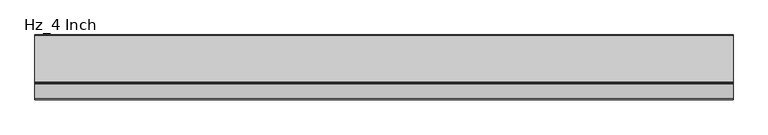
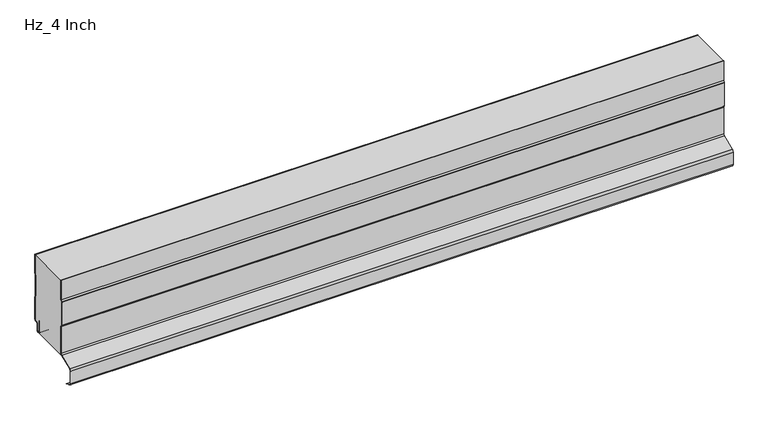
"""IFC4 building model written with IfcOpenShell, lengths in millimetres: plate geometry, AWIP_R18_CP_HR5_Hz_Roof Panel : Hz_4 Inch."""

import ifcopenshell
import ifcopenshell.guid

model = None  # the IFC model being written
_history = None  # IfcOwnerHistory: only IFC2X3 demands one
_inside = {}  # id of a spatial element -> (the spatial element, [elements in it])
_under = {}  # id of a project, library or spatial element -> (it, [spatial elements below it])
_declared = {}  # id of a project -> (the project, [libraries it declares])
_typed = {}  # id of a type object -> (the type object, [elements of that type])
_made_of = {}  # id of a material, layer set ... -> (it, [elements and type objects made of it])


def new_model(schema):
    """Start an empty IFC model of exactly this schema.

    Asked for "IFC4X3", IfcOpenShell would pick the latest addendum, in which some entities
    have other attributes; the version numbers below select the first issue.
    IFC2X3 requires an IfcOwnerHistory on every rooted entity: one is made here for all.
    """
    global model, _history
    if schema == "IFC4X3":
        model = ifcopenshell.file(schema_version=(4, 3, 0, 0))
    else:
        model = ifcopenshell.file(schema=schema)
    _inside.clear()
    _under.clear()
    _declared.clear()
    _typed.clear()
    _made_of.clear()
    _history = None
    if model.schema == "IFC2X3":
        org = make("IfcOrganization", Name="unknown")
        user = make(
            "IfcPersonAndOrganization",
            ThePerson=make("IfcPerson", FamilyName="unknown"),
            TheOrganization=org,
        )
        app = make(
            "IfcApplication",
            ApplicationDeveloper=org,
            Version="unknown",
            ApplicationFullName="unknown",
            ApplicationIdentifier="unknown",
        )
        _history = make(
            "IfcOwnerHistory",
            OwningUser=user,
            OwningApplication=app,
            ChangeAction="ADDED",
            CreationDate=0,
        )
    return model


def make(cls, **values):
    """One entity of the class cls with the attributes given. An attribute that is None is left unset."""
    return model.create_entity(
        cls, **{name: value for name, value in values.items() if value is not None}
    )


def rooted(cls, **values):
    """An entity with a GlobalId (a new one), such as an element, a storey or a relation."""
    return make(cls, GlobalId=ifcopenshell.guid.new(), OwnerHistory=_history, **values)


def si_unit(unit_type, name, prefix=None):
    """IfcSIUnit, for example si_unit("LENGTHUNIT", "METRE", prefix="MILLI")."""
    return make("IfcSIUnit", UnitType=unit_type, Prefix=prefix, Name=name)


def assignment(units):
    """IfcUnitAssignment: the units of a project."""
    return None if units is None else make("IfcUnitAssignment", Units=units)


def point(xyz):
    """IfcCartesianPoint."""
    return None if xyz is None else make("IfcCartesianPoint", Coordinates=xyz)


def direction(xyz):
    """IfcDirection."""
    return None if xyz is None else make("IfcDirection", DirectionRatios=xyz)


def frame(location, z_axis=None, x_axis=None):
    """IfcAxis2Placement3D, a coordinate frame: its origin and axes. An axis left out is left unset."""
    return make(
        "IfcAxis2Placement3D",
        Location=point(location),
        Axis=direction(z_axis),
        RefDirection=direction(x_axis),
    )


def frame_2d(location, x_axis=None):
    """IfcAxis2Placement2D, a coordinate frame in the plane: its origin and x axis."""
    return make(
        "IfcAxis2Placement2D", Location=point(location), RefDirection=direction(x_axis)
    )


def origin():
    """The frame at (0, 0, 0) with its axes left unset."""
    return frame((0.0, 0.0, 0.0))


def place(relative_to, where):
    """IfcLocalPlacement: puts the frame where relative to a parent placement (None: the world)."""
    return make(
        "IfcLocalPlacement", PlacementRelTo=relative_to, RelativePlacement=where
    )


def context(
    kind, dimensions, precision=None, world=None, true_north=None, identifier=None
):
    """IfcGeometricRepresentationContext, for example the 3D "Model" context."""
    return make(
        "IfcGeometricRepresentationContext",
        ContextIdentifier=identifier,
        ContextType=kind,
        CoordinateSpaceDimension=dimensions,
        Precision=precision,
        WorldCoordinateSystem=world,
        TrueNorth=true_north,
    )


def project(units=None, contexts=None):
    """IfcProject with its units and contexts."""
    return rooted(
        "IfcProject",
        Name="project",
        RepresentationContexts=contexts,
        UnitsInContext=assignment(units),
    )


def spatial(cls, under=None, at=None, **own):
    """A site, building, storey or space (cls), placed at a placement, below another one or the project."""
    s = rooted(cls, ObjectPlacement=at, **own)
    if under is not None:
        _under.setdefault(under.id(), (under, []))[1].append(s)
    return s


def polyline(points):
    """IfcPolyline through the points."""
    return make("IfcPolyline", Points=[point(p) for p in points])


def circle_curve(where, radius):
    """IfcCircle in the frame where."""
    return make("IfcCircle", Position=where, Radius=radius)


def trimmed(basis, trim1, trim2, sense, master):
    """IfcTrimmedCurve: the piece of a basis curve between two trims."""
    return make(
        "IfcTrimmedCurve",
        BasisCurve=basis,
        Trim1=trim1,
        Trim2=trim2,
        SenseAgreement=sense,
        MasterRepresentation=master,
    )


def segment(curve, same_sense, transition):
    """IfcCompositeCurveSegment."""
    return make(
        "IfcCompositeCurveSegment",
        Transition=transition,
        SameSense=same_sense,
        ParentCurve=curve,
    )


def composite_curve(segments, self_intersect=None):
    """IfcCompositeCurve: segments joined end to end."""
    return make("IfcCompositeCurve", Segments=segments, SelfIntersect=self_intersect)


def outline(outer, holes=None, kind="AREA"):
    """IfcArbitraryClosedProfileDef: a profile drawn as a closed curve; with holes, ...WithVoids."""
    if holes is None:
        return make("IfcArbitraryClosedProfileDef", ProfileType=kind, OuterCurve=outer)
    return make(
        "IfcArbitraryProfileDefWithVoids",
        ProfileType=kind,
        OuterCurve=outer,
        InnerCurves=holes,
    )


def extrude(swept, where, along, depth):
    """IfcExtrudedAreaSolid: the profile swept, set in the frame where, extruded along a direction by depth."""
    return make(
        "IfcExtrudedAreaSolid",
        SweptArea=swept,
        Position=where,
        ExtrudedDirection=direction(along),
        Depth=depth,
    )


def shape(context_of_items, identifier, shape_type, items):
    """IfcShapeRepresentation: the items that make up one representation, for example the "Body"."""
    return make(
        "IfcShapeRepresentation",
        ContextOfItems=context_of_items,
        RepresentationIdentifier=identifier,
        RepresentationType=shape_type,
        Items=items,
    )


def source(mapping_origin, context_of_items, identifier, shape_type, items):
    """IfcRepresentationMap: a shape defined once, which mapped items show again and again."""
    return make(
        "IfcRepresentationMap",
        MappingOrigin=mapping_origin,
        MappedRepresentation=shape(context_of_items, identifier, shape_type, items),
    )


def transform(
    local_origin,
    x_axis=None,
    y_axis=None,
    z_axis=None,
    scale=None,
    scale2=None,
    scale3=None,
    uniform=True,
):
    """IfcCartesianTransformationOperator3D, or its non-uniform kind. x_axis, y_axis, z_axis: its Axis1, 2, 3."""
    if uniform:
        return make(
            "IfcCartesianTransformationOperator3D",
            Axis1=direction(x_axis),
            Axis2=direction(y_axis),
            LocalOrigin=point(local_origin),
            Scale=scale,
            Axis3=direction(z_axis),
        )
    return make(
        "IfcCartesianTransformationOperator3DnonUniform",
        Axis1=direction(x_axis),
        Axis2=direction(y_axis),
        LocalOrigin=point(local_origin),
        Scale=scale,
        Axis3=direction(z_axis),
        Scale2=scale2,
        Scale3=scale3,
    )


def mapped(mapping_source, mapping_target):
    """IfcMappedItem: shows the shape of a source again, moved by a transform."""
    return make(
        "IfcMappedItem", MappingSource=mapping_source, MappingTarget=mapping_target
    )


def made_of(thing, what):
    """Note that an element or type object is made of a material, layer set ...; save() writes the relation."""
    if what is not None:
        _made_of.setdefault(what.id(), (what, []))[1].append(thing)
    return thing


def element(
    cls,
    number,
    at=None,
    inside=None,
    cuts=None,
    type_object=None,
    material=None,
    context=None,
    identifier="Body",
    shape_type=None,
    held_by="IfcProductDefinitionShape",
    body=None,
    shapes=None,
    **own,
):
    """One element of the class cls, such as IfcWall. Its Tag is "e" and its number.

    at: its placement. inside: the storey or other place that contains it. cuts: it is an
    opening in that element (IfcRelVoidsElement). A single representation is given by context,
    identifier, shape_type and body (its items); several are given by shapes. held_by: the class
    of the entity that holds the representations. save() writes the other relations.
    """
    e = rooted(cls, Tag="e%d" % number, ObjectPlacement=at, **own)
    if body is not None:
        shapes = [shape(context, identifier, shape_type, body)]
    if shapes is not None:
        e.Representation = make(held_by, Representations=shapes)
    if inside is not None:
        _inside.setdefault(inside.id(), (inside, []))[1].append(e)
    if cuts is not None:
        rooted(
            "IfcRelVoidsElement", RelatingBuildingElement=cuts, RelatedOpeningElement=e
        )
    if type_object is not None:
        _typed.setdefault(type_object.id(), (type_object, []))[1].append(e)
    return made_of(e, material)


def aggregate(whole, parts):
    """IfcRelAggregates: a whole, such as a stair, and the parts it consists of."""
    return rooted("IfcRelAggregates", RelatingObject=whole, RelatedObjects=parts)


def save(model, path):
    """Write the relations noted so far, then the file.

    IfcRelAggregates (storeys below a building ...), IfcRelContainedInSpatialStructure (elements
    in a storey), IfcRelDefinesByType, IfcRelAssociatesMaterial and IfcRelDeclares: one each for
    every whole, place, type object, material and project.
    """
    for whole, parts in _under.values():
        aggregate(whole, parts)
    for where, things in _inside.values():
        rooted(
            "IfcRelContainedInSpatialStructure",
            RelatedElements=things,
            RelatingStructure=where,
        )
    for kind, things in _typed.values():
        rooted("IfcRelDefinesByType", RelatedObjects=things, RelatingType=kind)
    for what, things in _made_of.values():
        rooted("IfcRelAssociatesMaterial", RelatedObjects=things, RelatingMaterial=what)
    for by, libraries in _declared.values():
        rooted("IfcRelDeclares", RelatingContext=by, RelatedDefinitions=libraries)
    model.write(path)


def hz_4_inch_9ffb667b(model_context):
    return source(origin(), model_context, "Body", "SweptSolid", [
        extrude(outline(composite_curve([segment(polyline([(-0.8, 161.5426774), (-0.8, 203.2), (0.0, 203.2), (0.0, 161.5426774)]), True, "CONTINUOUS"), segment(trimmed(circle_curve(frame_2d((-3.2, 161.5426774)), 3.2), [point((0.0, 161.5426774))], [point((-0.2624164, 160.2735823))], False, "CARTESIAN"), True, "CONTINUOUS"), segment(polyline([(-0.2624164, 160.2735823), (-1.2949872, 157.8834831)]), True, "CONTINUOUS"), segment(trimmed(circle_curve(frame_2d((1.0, 156.8920026)), 2.5), [point((-1.2949872, 157.8834831))], [point((-1.5, 156.8920026))], True, "CARTESIAN"), True, "CONTINUOUS"), segment(polyline([(-1.5, 156.8920026), (-1.5, 108.5079974)]), True, "CONTINUOUS"), segment(trimmed(circle_curve(frame_2d((1.0, 108.5079974)), 2.5), [point((-1.5, 108.5079974))], [point((-1.2949872, 107.5165169))], True, "CARTESIAN"), True, "CONTINUOUS"), segment(polyline([(-1.2949872, 107.5165169), (-0.2624164, 105.1264177)]), True, "CONTINUOUS"), segment(trimmed(circle_curve(frame_2d((-3.2, 103.8573226)), 3.2), [point((-0.2624164, 105.1264177))], [point((0.0, 103.8573226))], False, "CARTESIAN"), True, "CONTINUOUS"), segment(polyline([(0.0, 103.8573226), (0.0, 54.1)]), True, "CONTINUOUS"), segment(trimmed(circle_curve(frame_2d((-3.0, 54.1)), 3.0), [point((0.0, 54.1))], [point((-3.0, 51.1))], False, "CARTESIAN"), True, "CONTINUOUS"), segment(polyline([(-3.0, 51.1), (-5.0, 51.1)]), True, "CONTINUOUS"), segment(trimmed(circle_curve(frame_2d((-5.0, 47.1)), 4.0), [point((-5.0, 51.1))], [point((-9.0, 47.1))], True, "CARTESIAN"), True, "CONTINUOUS"), segment(polyline([(-9.0, 47.1), (-9.0, 33.5841899)]), True, "CONTINUOUS"), segment(trimmed(circle_curve(frame_2d((-12.0, 33.5841899)), 3.0), [point((-9.0, 33.5841899))], [point((-12.0, 30.5841899))], False, "CARTESIAN"), True, "CONTINUOUS"), segment(polyline([(-12.0, 30.5841899), (-14.0, 30.5841899)]), True, "CONTINUOUS"), segment(trimmed(circle_curve(frame_2d((-14.0, 33.5841899)), 3.0), [point((-14.0, 30.5841899))], [point((-17.0, 33.5841899))], False, "CARTESIAN"), True, "CONTINUOUS"), segment(polyline([(-17.0, 33.5841899), (-17.0, 59.5252318), (-16.2, 59.5252318), (-16.2, 33.5841899)]), True, "CONTINUOUS"), segment(trimmed(circle_curve(frame_2d((-14.0, 33.5841899)), 2.2), [point((-16.2, 33.5841899))], [point((-14.0, 31.3841899))], True, "CARTESIAN"), True, "CONTINUOUS"), segment(polyline([(-14.0, 31.3841899), (-12.0, 31.3841899)]), True, "CONTINUOUS"), segment(trimmed(circle_curve(frame_2d((-12.0, 33.5841899)), 2.2), [point((-12.0, 31.3841899))], [point((-9.8, 33.5841899))], True, "CARTESIAN"), True, "CONTINUOUS"), segment(polyline([(-9.8, 33.5841899), (-9.8, 47.1)]), True, "CONTINUOUS"), segment(trimmed(circle_curve(frame_2d((-5.0, 47.1)), 4.8), [point((-9.8, 47.1))], [point((-5.0, 51.9))], False, "CARTESIAN"), True, "CONTINUOUS"), segment(polyline([(-5.0, 51.9), (-3.0, 51.9)]), True, "CONTINUOUS"), segment(trimmed(circle_curve(frame_2d((-3.0, 54.1)), 2.2), [point((-3.0, 51.9))], [point((-0.8, 54.1))], True, "CARTESIAN"), True, "CONTINUOUS"), segment(polyline([(-0.8, 54.1), (-0.8, 103.8573226)]), True, "CONTINUOUS"), segment(trimmed(circle_curve(frame_2d((-3.2, 103.8573226)), 2.4), [point((-0.8, 103.8573226))], [point((-0.9968123, 104.8091439))], True, "CARTESIAN"), True, "CONTINUOUS"), segment(polyline([(-0.9968123, 104.8091439), (-2.0293831, 107.1992431)]), True, "CONTINUOUS"), segment(trimmed(circle_curve(frame_2d((1.0, 108.5079974)), 3.3), [point((-2.0293831, 107.1992431))], [point((-2.3, 108.5079974))], False, "CARTESIAN"), True, "CONTINUOUS"), segment(polyline([(-2.3, 108.5079974), (-2.3, 156.8920026)]), True, "CONTINUOUS"), segment(trimmed(circle_curve(frame_2d((1.0, 156.8920026)), 3.3), [point((-2.3, 156.8920026))], [point((-2.0293831, 158.2007569))], False, "CARTESIAN"), True, "CONTINUOUS"), segment(polyline([(-2.0293831, 158.2007569), (-0.9968123, 160.5908561)]), True, "CONTINUOUS"), segment(trimmed(circle_curve(frame_2d((-3.2, 161.5426774)), 2.4), [point((-0.9968123, 160.5908561))], [point((-0.8, 161.5426774))], True, "CARTESIAN"), True, "CONTINUOUS")], self_intersect=False)), frame((-723.9042608, 0.0, 0.0), z_axis=(1.0, 0.0, 0.0), x_axis=(0.0, 1.0, 0.0)), (0.0, 0.0, 1.0), 1447.8085217),
        extrude(outline(composite_curve([segment(polyline([(-98.8158805, 158.5882334), (-98.8158805, 203.2), (-98.0158805, 203.2), (-98.0158805, 158.7499765)]), True, "CONTINUOUS"), segment(trimmed(circle_curve(frame_2d((-99.3158805, 158.7499765)), 1.3), [point((-98.0158805, 158.7499765))], [point((-98.2621796, 157.9885867))], False, "CARTESIAN"), True, "CONTINUOUS"), segment(polyline([(-98.2621796, 157.9885867), (-100.7999999, 154.4764522), (-100.7999999, 100.2735719), (-98.2621795, 96.7614373)]), True, "CONTINUOUS"), segment(trimmed(circle_curve(frame_2d((-99.3158804, 96.0000475)), 1.3), [point((-98.2621795, 96.7614373))], [point((-98.0158804, 96.0000475))], False, "CARTESIAN"), True, "CONTINUOUS"), segment(polyline([(-98.0158804, 96.0000475), (-98.0158804, 35.2161306)]), True, "CONTINUOUS"), segment(trimmed(circle_curve(frame_2d((-102.8158804, 35.2161306)), 4.8), [point((-98.0158804, 35.2161306))], [point((-100.9404013, 30.7976944))], False, "CARTESIAN"), True, "CONTINUOUS"), segment(polyline([(-100.9404013, 30.7976944), (-130.9569246, 18.0566792)]), True, "CONTINUOUS"), segment(trimmed(circle_curve(frame_2d((-129.3158804, 14.1905475)), 4.2), [point((-130.9569246, 18.0566792))], [point((-133.5158804, 14.1905475))], True, "CARTESIAN"), True, "CONTINUOUS"), segment(polyline([(-133.5158804, 14.1905475), (-133.5158804, -14.1905446)]), True, "CONTINUOUS"), segment(trimmed(circle_curve(frame_2d((-129.3158804, -14.1905446)), 4.2), [point((-133.5158804, -14.1905446))], [point((-130.9569214, -18.0566776))], True, "CARTESIAN"), True, "CONTINUOUS"), segment(polyline([(-130.9569214, -18.0566776), (-118.3561658, -23.4052667), (-118.6672483, -24.1423084), (-131.2695007, -18.7930838)]), True, "CONTINUOUS"), segment(trimmed(circle_curve(frame_2d((-129.3158804, -14.1905446)), 5.0), [point((-131.2695007, -18.7930838))], [point((-134.3158804, -14.1905446))], False, "CARTESIAN"), True, "CONTINUOUS"), segment(polyline([(-134.3158804, -14.1905446), (-134.3158804, 14.1905475)]), True, "CONTINUOUS"), segment(trimmed(circle_curve(frame_2d((-129.3158804, 14.1905475)), 5.0), [point((-134.3158804, 14.1905475))], [point((-131.2695045, 18.7930852))], False, "CARTESIAN"), True, "CONTINUOUS"), segment(polyline([(-131.2695045, 18.7930852), (-101.2529811, 31.5341005)]), True, "CONTINUOUS"), segment(trimmed(circle_curve(frame_2d((-102.8158804, 35.2161306)), 4.0), [point((-101.2529811, 31.5341005))], [point((-98.8158804, 35.2161306))], True, "CARTESIAN"), True, "CONTINUOUS"), segment(polyline([(-98.8158804, 35.2161306), (-98.8158804, 96.1617908), (-101.3158083, 99.6214851)]), True, "CONTINUOUS"), segment(trimmed(circle_curve(frame_2d((-100.0999996, 100.5000119)), 1.5), [point((-101.3158083, 99.6214851))], [point((-101.5999996, 100.5000119))], False, "CARTESIAN"), True, "CONTINUOUS"), segment(polyline([(-101.5999996, 100.5000119), (-101.5999996, 154.2490404)]), True, "CONTINUOUS"), segment(trimmed(circle_curve(frame_2d((-100.0999999, 154.2500118)), 1.5), [point((-101.5999996, 154.2490404))], [point((-101.3158086, 155.1285386))], False, "CARTESIAN"), True, "CONTINUOUS"), segment(polyline([(-101.3158086, 155.1285386), (-98.8158805, 158.5882334)]), True, "CONTINUOUS")], self_intersect=False)), frame((-723.9042608, 0.0, 0.0), z_axis=(1.0, 0.0, 0.0), x_axis=(0.0, 1.0, 0.0)), (0.0, 0.0, 1.0), 1447.8085217),
        extrude(outline(composite_curve([segment(polyline([(-98.0158809, 158.7499765), (-98.0158809, 203.2), (-0.8, 203.2), (-0.8, 161.5257309)]), True, "CONTINUOUS"), segment(trimmed(circle_curve(frame_2d((-3.2, 161.5257309)), 2.4), [point((-0.8, 161.5257309))], [point((-0.9968123, 160.5739095))], False, "CARTESIAN"), True, "CONTINUOUS"), segment(polyline([(-0.9968123, 160.5739095), (-2.0293831, 158.1838103)]), True, "CONTINUOUS"), segment(trimmed(circle_curve(frame_2d((1.0, 156.875056)), 3.3), [point((-2.0293831, 158.1838103))], [point((-2.3, 156.875056))], True, "CARTESIAN"), True, "CONTINUOUS"), segment(polyline([(-2.3, 156.875056), (-2.3, 108.4910509)]), True, "CONTINUOUS"), segment(trimmed(circle_curve(frame_2d((1.0, 108.4910509)), 3.3), [point((-2.3, 108.4910509))], [point((-2.0293831, 107.1822965))], True, "CARTESIAN"), True, "CONTINUOUS"), segment(polyline([(-2.0293831, 107.1822965), (-0.9968123, 104.7921973)]), True, "CONTINUOUS"), segment(trimmed(circle_curve(frame_2d((-3.2, 103.840376)), 2.4), [point((-0.9968123, 104.7921973))], [point((-0.8, 103.840376))], False, "CARTESIAN"), True, "CONTINUOUS"), segment(polyline([(-0.8, 103.840376), (-0.8, 54.0830534)]), True, "CONTINUOUS"), segment(trimmed(circle_curve(frame_2d((-3.0, 54.0830534)), 2.2), [point((-0.8, 54.0830534))], [point((-3.0, 51.8830534))], False, "CARTESIAN"), True, "CONTINUOUS"), segment(polyline([(-3.0, 51.8830534), (-5.0, 51.8830534)]), True, "CONTINUOUS"), segment(trimmed(circle_curve(frame_2d((-5.0, 47.0830534)), 4.8), [point((-5.0, 51.8830534))], [point((-9.8, 47.0830534))], True, "CARTESIAN"), True, "CONTINUOUS"), segment(polyline([(-9.8, 47.0830534), (-9.8, 33.5672433)]), True, "CONTINUOUS"), segment(trimmed(circle_curve(frame_2d((-12.0, 33.5672433)), 2.2), [point((-9.8, 33.5672433))], [point((-12.0, 31.3672433))], False, "CARTESIAN"), True, "CONTINUOUS"), segment(polyline([(-12.0, 31.3672433), (-14.0, 31.3672433)]), True, "CONTINUOUS"), segment(trimmed(circle_curve(frame_2d((-14.0, 33.5672433)), 2.2), [point((-14.0, 31.3672433))], [point((-16.2, 33.5672433))], False, "CARTESIAN"), True, "CONTINUOUS"), segment(polyline([(-16.2, 33.5672433), (-16.2, 59.5082852), (-17.0, 59.5082852), (-17.0, 33.5672433)]), True, "CONTINUOUS"), segment(trimmed(circle_curve(frame_2d((-14.0, 33.5672433)), 3.0), [point((-17.0, 33.5672433))], [point((-14.0, 30.5672433))], True, "CARTESIAN"), True, "CONTINUOUS"), segment(polyline([(-14.0, 30.5672433), (-101.6209553, 30.5672433)]), True, "CONTINUOUS"), segment(trimmed(circle_curve(frame_2d((-102.8158808, 35.2161306)), 4.8), [point((-101.6209553, 30.5672433))], [point((-98.0158808, 35.2161306))], True, "CARTESIAN"), True, "CONTINUOUS"), segment(polyline([(-98.0158808, 35.2161306), (-98.0158808, 96.0000475)]), True, "CONTINUOUS"), segment(trimmed(circle_curve(frame_2d((-99.3158808, 96.0000475)), 1.3), [point((-98.0158808, 96.0000475))], [point((-98.2621799, 96.7614373))], True, "CARTESIAN"), True, "CONTINUOUS"), segment(polyline([(-98.2621799, 96.7614373), (-100.8000003, 100.2735719), (-100.8000003, 154.4764522), (-98.26218, 157.9885867)]), True, "CONTINUOUS"), segment(trimmed(circle_curve(frame_2d((-99.3158809, 158.7499765)), 1.3), [point((-98.26218, 157.9885867))], [point((-98.0158809, 158.7499765))], True, "CARTESIAN"), True, "CONTINUOUS")], self_intersect=False)), frame((-723.9042608, 0.0, 0.0), z_axis=(1.0, 0.0, 0.0), x_axis=(0.0, 1.0, 0.0)), (0.0, 0.0, 1.0), 1447.8085217),
    ])


if __name__ == "__main__":
    model = new_model("IFC4")
    model_context = context("Model", 3, world=origin())
    ifc_project = project(units=[si_unit("LENGTHUNIT", "METRE", prefix="MILLI")], contexts=[model_context])
    site = spatial("IfcSite", under=ifc_project)
    building = spatial("IfcBuilding", under=site)
    placement = place(None, origin())
    hz_4_inch_shape = hz_4_inch_9ffb667b(model_context)
    element("IfcPlate", 1, ObjectType="AWIP_R18_CP_HR5_Hz_Roof Panel : Hz_4 Inch", at=placement, inside=building, context=model_context, shape_type="MappedRepresentation", body=[
        mapped(hz_4_inch_shape, transform((0.0, 0.0, 0.0), x_axis=(1.0, 0.0, 0.0), y_axis=(0.0, 1.0, 0.0), z_axis=(0.0, 0.0, 1.0))),
    ])
    save(model, "model.ifc")
